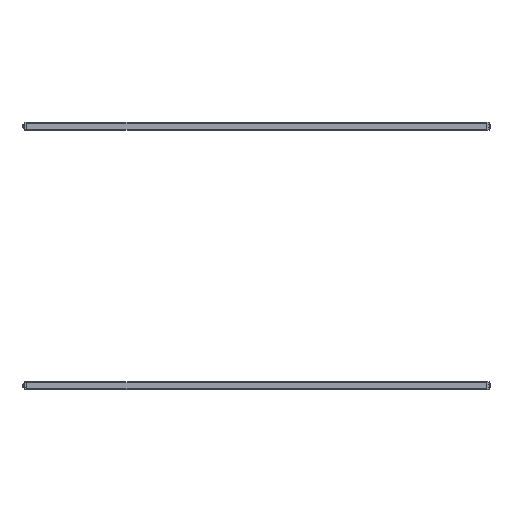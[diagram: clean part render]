
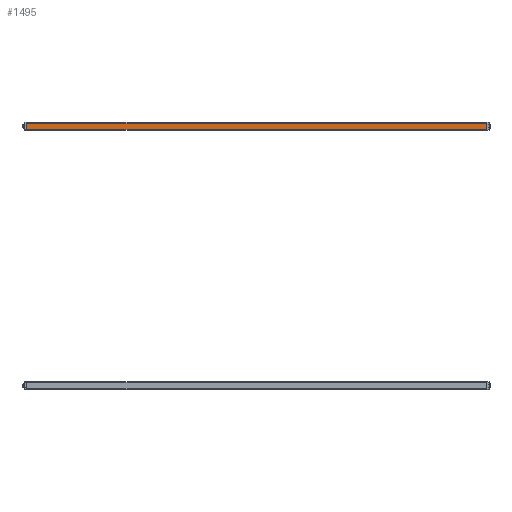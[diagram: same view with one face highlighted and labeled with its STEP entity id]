
A CAD part, front view. The second image highlights one B-rep face of the part: STEP entity #1495.
In plain terms, the highlighted planar face has unit normal (0, -1, 0).
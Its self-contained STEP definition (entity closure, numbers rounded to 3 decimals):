
#1495=ADVANCED_FACE('',(#2417),#2028,.T.);
#2028=PLANE('',#11681);
#2417=FACE_OUTER_BOUND('',#2936,.T.);
#2936=EDGE_LOOP('',(#6212,#6213,#6214,#6215));
#3504=LINE('',#15476,#4677);
#3606=LINE('',#15708,#4779);
#3694=LINE('',#15887,#4867);
#3695=LINE('',#15888,#4868);
#4677=VECTOR('',#12523,1.);
#4779=VECTOR('',#12669,1.);
#4867=VECTOR('',#12859,1.);
#4868=VECTOR('',#12860,1.);
#6212=ORIENTED_EDGE('',*,*,#9854,.T.);
#6213=ORIENTED_EDGE('',*,*,#10063,.T.);
#6214=ORIENTED_EDGE('',*,*,#9971,.F.);
#6215=ORIENTED_EDGE('',*,*,#10064,.F.);
#8861=VERTEX_POINT('',#15475);
#8862=VERTEX_POINT('',#15477);
#8969=VERTEX_POINT('',#15707);
#8970=VERTEX_POINT('',#15709);
#9854=EDGE_CURVE('',#8862,#8861,#3504,.T.);
#9971=EDGE_CURVE('',#8969,#8970,#3606,.T.);
#10063=EDGE_CURVE('',#8861,#8970,#3694,.T.);
#10064=EDGE_CURVE('',#8862,#8969,#3695,.T.);
#11681=AXIS2_PLACEMENT_3D('',#15889,#12861,#12862);
#12523=DIRECTION('',(0.,0.,-1.));
#12669=DIRECTION('',(0.,0.,-1.));
#12859=DIRECTION('',(1.,0.,0.));
#12860=DIRECTION('',(1.,0.,0.));
#12861=DIRECTION('',(0.,-1.,0.));
#12862=DIRECTION('',(0.,0.,-1.));
#15475=CARTESIAN_POINT('',(0.,-15.15,-12.));
#15476=CARTESIAN_POINT('',(0.,-15.15,12.));
#15477=CARTESIAN_POINT('',(0.,-15.15,12.));
#15707=CARTESIAN_POINT('',(1820.,-15.15,12.));
#15708=CARTESIAN_POINT('',(1820.,-15.15,0.));
#15709=CARTESIAN_POINT('',(1820.,-15.15,-12.));
#15887=CARTESIAN_POINT('',(0.,-15.15,-12.));
#15888=CARTESIAN_POINT('',(0.,-15.15,12.));
#15889=CARTESIAN_POINT('',(0.,-15.15,15.65));
